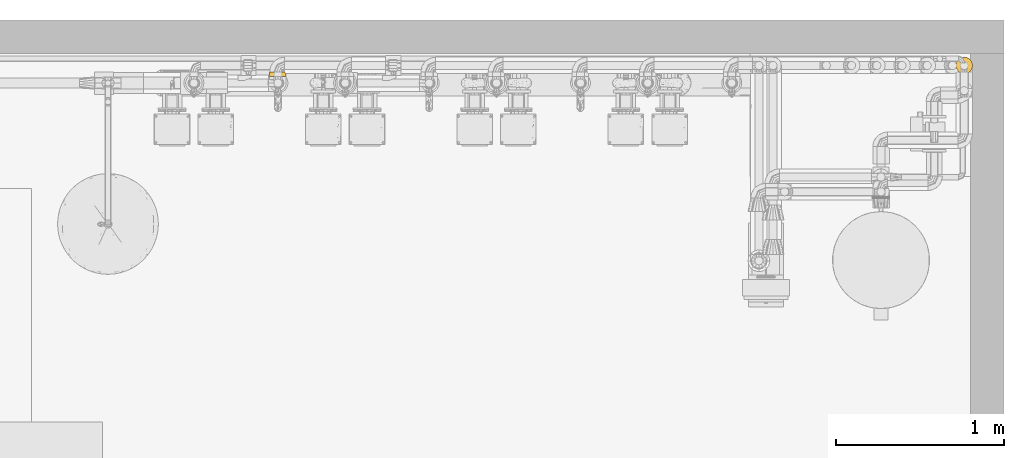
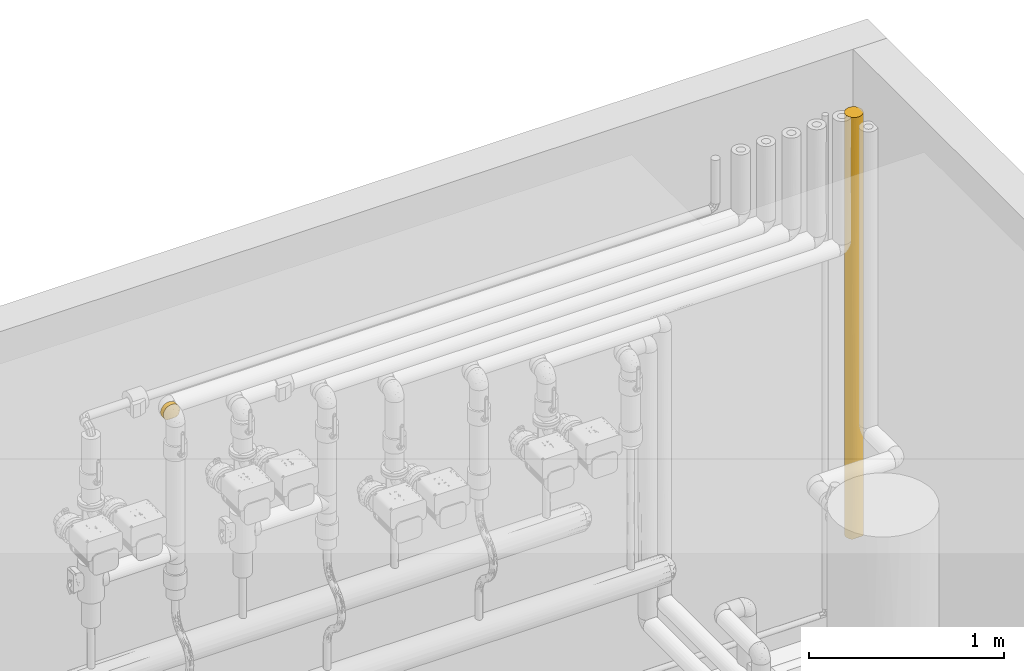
# One storey, part 11 of 94: 2 coverings.
"""IFC2X3 building model written with IfcOpenShell, lengths in millimetres."""

import ifcopenshell
import ifcopenshell.guid

model = None  # the IFC model being written
_history = None  # IfcOwnerHistory: only IFC2X3 demands one
_inside = {}  # id of a spatial element -> (the spatial element, [elements in it])
_under = {}  # id of a project, library or spatial element -> (it, [spatial elements below it])
_declared = {}  # id of a project -> (the project, [libraries it declares])
_typed = {}  # id of a type object -> (the type object, [elements of that type])
_made_of = {}  # id of a material, layer set ... -> (it, [elements and type objects made of it])


def new_model(schema):
    """Start an empty IFC model of exactly this schema.

    Asked for "IFC4X3", IfcOpenShell would pick the latest addendum, in which some entities
    have other attributes; the version numbers below select the first issue.
    IFC2X3 requires an IfcOwnerHistory on every rooted entity: one is made here for all.
    """
    global model, _history
    if schema == "IFC4X3":
        model = ifcopenshell.file(schema_version=(4, 3, 0, 0))
    else:
        model = ifcopenshell.file(schema=schema)
    _inside.clear()
    _under.clear()
    _declared.clear()
    _typed.clear()
    _made_of.clear()
    _history = None
    if model.schema == "IFC2X3":
        org = make("IfcOrganization", Name="unknown")
        user = make(
            "IfcPersonAndOrganization",
            ThePerson=make("IfcPerson", FamilyName="unknown"),
            TheOrganization=org,
        )
        app = make(
            "IfcApplication",
            ApplicationDeveloper=org,
            Version="unknown",
            ApplicationFullName="unknown",
            ApplicationIdentifier="unknown",
        )
        _history = make(
            "IfcOwnerHistory",
            OwningUser=user,
            OwningApplication=app,
            ChangeAction="ADDED",
            CreationDate=0,
        )
    return model


def make(cls, **values):
    """One entity of the class cls with the attributes given. An attribute that is None is left unset."""
    return model.create_entity(
        cls, **{name: value for name, value in values.items() if value is not None}
    )


def entity(cls, *values):
    """Any entity or typed value of the class cls, its attributes in the order of the schema. None: left unset."""
    e = model.create_entity(cls)
    for i, value in enumerate(values):
        if value is not None:
            e[i] = value
    return e


def rooted(cls, **values):
    """An entity with a GlobalId (a new one), such as an element, a storey or a relation."""
    return make(cls, GlobalId=ifcopenshell.guid.new(), OwnerHistory=_history, **values)


def si_unit(unit_type, name, prefix=None):
    """IfcSIUnit, for example si_unit("LENGTHUNIT", "METRE", prefix="MILLI")."""
    return make("IfcSIUnit", UnitType=unit_type, Prefix=prefix, Name=name)


def converted_unit(unit_type, name, factor, base, dimensions=None, offset=None):
    """IfcConversionBasedUnit, such as the inch: factor (a typed value) times the base unit."""
    return make(
        "IfcConversionBasedUnit"
        if offset is None
        else "IfcConversionBasedUnitWithOffset",
        ConversionOffset=offset,
        Dimensions=None
        if dimensions is None
        else entity("IfcDimensionalExponents", *dimensions),
        UnitType=unit_type,
        Name=name,
        ConversionFactor=make(
            "IfcMeasureWithUnit", ValueComponent=factor, UnitComponent=base
        ),
    )


def derived_unit(unit_type, elements):
    """IfcDerivedUnit: a product of units, each with its exponent."""
    return make(
        "IfcDerivedUnit",
        Elements=[
            make("IfcDerivedUnitElement", Unit=unit, Exponent=power)
            for unit, power in elements
        ],
        UnitType=unit_type,
    )


def assignment(units):
    """IfcUnitAssignment: the units of a project."""
    return None if units is None else make("IfcUnitAssignment", Units=units)


def point(xyz):
    """IfcCartesianPoint."""
    return None if xyz is None else make("IfcCartesianPoint", Coordinates=xyz)


def direction(xyz):
    """IfcDirection."""
    return None if xyz is None else make("IfcDirection", DirectionRatios=xyz)


def frame(location, z_axis=None, x_axis=None):
    """IfcAxis2Placement3D, a coordinate frame: its origin and axes. An axis left out is left unset."""
    return make(
        "IfcAxis2Placement3D",
        Location=point(location),
        Axis=direction(z_axis),
        RefDirection=direction(x_axis),
    )


def origin():
    """The frame at (0, 0, 0) with its axes left unset."""
    return frame((0.0, 0.0, 0.0))


def place(relative_to, where):
    """IfcLocalPlacement: puts the frame where relative to a parent placement (None: the world)."""
    return make(
        "IfcLocalPlacement", PlacementRelTo=relative_to, RelativePlacement=where
    )


def context(
    kind, dimensions, precision=None, world=None, true_north=None, identifier=None
):
    """IfcGeometricRepresentationContext, for example the 3D "Model" context."""
    return make(
        "IfcGeometricRepresentationContext",
        ContextIdentifier=identifier,
        ContextType=kind,
        CoordinateSpaceDimension=dimensions,
        Precision=precision,
        WorldCoordinateSystem=world,
        TrueNorth=true_north,
    )


def subcontext(parent, identifier, kind, view, scale=None):
    """IfcGeometricRepresentationSubContext, for example "Body" below "Model"."""
    return make(
        "IfcGeometricRepresentationSubContext",
        ContextIdentifier=identifier,
        ContextType=kind,
        ParentContext=parent,
        TargetScale=scale,
        TargetView=view,
    )


def project(units=None, contexts=None):
    """IfcProject with its units and contexts."""
    return rooted(
        "IfcProject",
        Name="project",
        RepresentationContexts=contexts,
        UnitsInContext=assignment(units),
    )


def spatial(cls, under=None, at=None, **own):
    """A site, building, storey or space (cls), placed at a placement, below another one or the project."""
    s = rooted(cls, ObjectPlacement=at, **own)
    if under is not None:
        _under.setdefault(under.id(), (under, []))[1].append(s)
    return s


def faces_of(points, faces, orient=None, outer=None):
    """IfcFace entities. A face is a list of loops; a loop is a list of indices into points, from 0.

    orient and outer hold one flag for each loop. By default every Orientation is true, the
    first loop of a face is its IfcFaceOuterBound and the others are IfcFaceBound.
    """
    made = []
    for i, loops in enumerate(faces):
        bounds = []
        for j, loop in enumerate(loops):
            is_outer = j == 0 if outer is None else outer[i][j]
            bounds.append(
                make(
                    "IfcFaceOuterBound" if is_outer else "IfcFaceBound",
                    Bound=make("IfcPolyLoop", Polygon=[points[k] for k in loop]),
                    Orientation=True if orient is None else orient[i][j],
                )
            )
        made.append(make("IfcFace", Bounds=bounds))
    return made


def faceted_brep(points, faces, orient=None, outer=None, voids=None):
    """IfcFacetedBrep: a solid bounded by flat faces; with voids (closed shells), ...WithVoids."""
    shared = [point(p) for p in points]
    hull = make("IfcClosedShell", CfsFaces=faces_of(shared, faces, orient, outer))
    if voids is None:
        return make("IfcFacetedBrep", Outer=hull)
    return make(
        "IfcFacetedBrepWithVoids",
        Outer=hull,
        Voids=[
            make(cls, CfsFaces=faces_of(shared, fs, o, b)) for cls, fs, o, b in voids
        ],
    )


def shape(context_of_items, identifier, shape_type, items):
    """IfcShapeRepresentation: the items that make up one representation, for example the "Body"."""
    return make(
        "IfcShapeRepresentation",
        ContextOfItems=context_of_items,
        RepresentationIdentifier=identifier,
        RepresentationType=shape_type,
        Items=items,
    )


def material(Name=None, Category=None):
    """IfcMaterial."""
    return make("IfcMaterial", Name=Name, Category=Category)


def made_of(thing, what):
    """Note that an element or type object is made of a material, layer set ...; save() writes the relation."""
    if what is not None:
        _made_of.setdefault(what.id(), (what, []))[1].append(thing)
    return thing


def element(
    cls,
    number,
    at=None,
    inside=None,
    cuts=None,
    type_object=None,
    material=None,
    context=None,
    identifier="Body",
    shape_type=None,
    held_by="IfcProductDefinitionShape",
    body=None,
    shapes=None,
    **own,
):
    """One element of the class cls, such as IfcWall. Its Tag is "e" and its number.

    at: its placement. inside: the storey or other place that contains it. cuts: it is an
    opening in that element (IfcRelVoidsElement). A single representation is given by context,
    identifier, shape_type and body (its items); several are given by shapes. held_by: the class
    of the entity that holds the representations. save() writes the other relations.
    """
    e = rooted(cls, Tag="e%d" % number, ObjectPlacement=at, **own)
    if body is not None:
        shapes = [shape(context, identifier, shape_type, body)]
    if shapes is not None:
        e.Representation = make(held_by, Representations=shapes)
    if inside is not None:
        _inside.setdefault(inside.id(), (inside, []))[1].append(e)
    if cuts is not None:
        rooted(
            "IfcRelVoidsElement", RelatingBuildingElement=cuts, RelatedOpeningElement=e
        )
    if type_object is not None:
        _typed.setdefault(type_object.id(), (type_object, []))[1].append(e)
    return made_of(e, material)


def aggregate(whole, parts):
    """IfcRelAggregates: a whole, such as a stair, and the parts it consists of."""
    return rooted("IfcRelAggregates", RelatingObject=whole, RelatedObjects=parts)


def save(model, path):
    """Write the relations noted so far, then the file.

    IfcRelAggregates (storeys below a building ...), IfcRelContainedInSpatialStructure (elements
    in a storey), IfcRelDefinesByType, IfcRelAssociatesMaterial and IfcRelDeclares: one each for
    every whole, place, type object, material and project.
    """
    for whole, parts in _under.values():
        aggregate(whole, parts)
    for where, things in _inside.values():
        rooted(
            "IfcRelContainedInSpatialStructure",
            RelatedElements=things,
            RelatingStructure=where,
        )
    for kind, things in _typed.values():
        rooted("IfcRelDefinesByType", RelatedObjects=things, RelatingType=kind)
    for what, things in _made_of.values():
        rooted("IfcRelAssociatesMaterial", RelatedObjects=things, RelatingMaterial=what)
    for by, libraries in _declared.values():
        rooted("IfcRelDeclares", RelatingContext=by, RelatedDefinitions=libraries)
    model.write(path)


model = new_model("IFC2X3")

# Units and contexts
model_context = context("Model", 3, precision=0.01, world=origin(), true_north=direction((6.123031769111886e-17, 1.0)))
body_context = subcontext(model_context, "Body", "Model", "MODEL_VIEW")
ifc_project = project(units=[si_unit("LENGTHUNIT", "METRE", prefix="MILLI"), si_unit("AREAUNIT", "SQUARE_METRE"), si_unit("VOLUMEUNIT", "CUBIC_METRE"), converted_unit("PLANEANGLEUNIT", "DEGREE", entity("IfcRatioMeasure", 0.017453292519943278), si_unit("PLANEANGLEUNIT", "RADIAN"), dimensions=[0, 0, 0, 0, 0, 0, 0]), si_unit("MASSUNIT", "GRAM", prefix="KILO"), derived_unit("MASSDENSITYUNIT", [(si_unit("MASSUNIT", "GRAM", prefix="KILO"), 1), (si_unit("LENGTHUNIT", "METRE"), -3)]), derived_unit("IONCONCENTRATIONUNIT", [(si_unit("MASSUNIT", "GRAM", prefix="KILO"), 1), (si_unit("LENGTHUNIT", "METRE"), -3)]), derived_unit("MOMENTOFINERTIAUNIT", [(si_unit("LENGTHUNIT", "METRE"), 4)]), si_unit("TIMEUNIT", "SECOND"), si_unit("FREQUENCYUNIT", "HERTZ"), si_unit("THERMODYNAMICTEMPERATUREUNIT", "DEGREE_CELSIUS"), derived_unit("THERMALTRANSMITTANCEUNIT", [(si_unit("MASSUNIT", "GRAM", prefix="KILO"), 1), (si_unit("THERMODYNAMICTEMPERATUREUNIT", "KELVIN"), -1), (si_unit("TIMEUNIT", "SECOND"), -3)]), derived_unit("THERMALCONDUCTANCEUNIT", [(si_unit("MASSUNIT", "GRAM", prefix="KILO"), 1), (si_unit("THERMODYNAMICTEMPERATUREUNIT", "KELVIN"), -1), (si_unit("TIMEUNIT", "SECOND"), -3), (si_unit("LENGTHUNIT", "METRE"), 1)]), derived_unit("VOLUMETRICFLOWRATEUNIT", [(si_unit("LENGTHUNIT", "METRE"), 3), (si_unit("TIMEUNIT", "SECOND"), -1)]), derived_unit("MASSFLOWRATEUNIT", [(si_unit("MASSUNIT", "GRAM", prefix="KILO"), 1), (si_unit("TIMEUNIT", "SECOND"), -1)]), derived_unit("ROTATIONALFREQUENCYUNIT", [(si_unit("TIMEUNIT", "SECOND"), -1)]), si_unit("ELECTRICCURRENTUNIT", "AMPERE"), si_unit("ELECTRICVOLTAGEUNIT", "VOLT"), si_unit("POWERUNIT", "WATT"), si_unit("FORCEUNIT", "NEWTON", prefix="KILO"), si_unit("ILLUMINANCEUNIT", "LUX"), si_unit("LUMINOUSFLUXUNIT", "LUMEN"), si_unit("LUMINOUSINTENSITYUNIT", "CANDELA"), derived_unit("USERDEFINED", [(si_unit("MASSUNIT", "GRAM", prefix="KILO"), -1), (si_unit("LENGTHUNIT", "METRE"), -2), (si_unit("TIMEUNIT", "SECOND"), 3), (si_unit("LUMINOUSFLUXUNIT", "LUMEN"), 1)]), derived_unit("USERDEFINED", [(si_unit("MASSUNIT", "GRAM", prefix="KILO"), 1), (si_unit("TIMEUNIT", "SECOND"), -3), (si_unit("LENGTHUNIT", "METRE"), 3), (si_unit("ELECTRICCURRENTUNIT", "AMPERE"), -2)]), derived_unit("SOUNDPOWERUNIT", [(si_unit("MASSUNIT", "GRAM", prefix="KILO"), 1), (si_unit("TIMEUNIT", "SECOND"), -3), (si_unit("LENGTHUNIT", "METRE"), 2)]), derived_unit("SOUNDPRESSUREUNIT", [(si_unit("MASSUNIT", "GRAM", prefix="KILO"), 1), (si_unit("LENGTHUNIT", "METRE"), -1), (si_unit("TIMEUNIT", "SECOND"), -2)]), derived_unit("LINEARVELOCITYUNIT", [(si_unit("LENGTHUNIT", "METRE"), 1), (si_unit("TIMEUNIT", "SECOND"), -1)]), si_unit("PRESSUREUNIT", "PASCAL"), derived_unit("USERDEFINED", [(si_unit("MASSUNIT", "GRAM", prefix="KILO"), 1), (si_unit("LENGTHUNIT", "METRE"), -2), (si_unit("TIMEUNIT", "SECOND"), -2)]), derived_unit("LINEARFORCEUNIT", [(si_unit("MASSUNIT", "GRAM", prefix="KILO"), 1), (si_unit("TIMEUNIT", "SECOND"), -2)]), derived_unit("PLANARFORCEUNIT", [(si_unit("MASSUNIT", "GRAM", prefix="KILO"), 1), (si_unit("LENGTHUNIT", "METRE"), -1), (si_unit("TIMEUNIT", "SECOND"), -2)]), derived_unit("SPECIFICHEATCAPACITYUNIT", [(si_unit("THERMODYNAMICTEMPERATUREUNIT", "KELVIN"), -1), (si_unit("LENGTHUNIT", "METRE"), 2), (si_unit("TIMEUNIT", "SECOND"), -2)]), derived_unit("HEATINGVALUEUNIT", [(si_unit("LENGTHUNIT", "METRE"), 2), (si_unit("TIMEUNIT", "SECOND"), -2)]), derived_unit("VAPORPERMEABILITYUNIT", [(si_unit("LENGTHUNIT", "METRE"), -1), (si_unit("TIMEUNIT", "SECOND"), 1)]), derived_unit("DYNAMICVISCOSITYUNIT", [(si_unit("MASSUNIT", "GRAM", prefix="KILO"), 1), (si_unit("TIMEUNIT", "SECOND"), -1), (si_unit("LENGTHUNIT", "METRE"), -1)]), derived_unit("THERMALEXPANSIONCOEFFICIENTUNIT", [(si_unit("THERMODYNAMICTEMPERATUREUNIT", "KELVIN"), -1)]), derived_unit("MODULUSOFELASTICITYUNIT", [(si_unit("MASSUNIT", "GRAM", prefix="KILO"), 1), (si_unit("LENGTHUNIT", "METRE"), -1), (si_unit("TIMEUNIT", "SECOND"), -2)]), derived_unit("ISOTHERMALMOISTURECAPACITYUNIT", [(si_unit("LENGTHUNIT", "METRE"), 3), (si_unit("MASSUNIT", "GRAM", prefix="KILO"), -1)]), derived_unit("MOISTUREDIFFUSIVITYUNIT", [(si_unit("TIMEUNIT", "SECOND"), -1), (si_unit("LENGTHUNIT", "METRE"), 2)])], contexts=[model_context])

# Site, building, storey
site_placement = place(None, origin())
site = spatial("IfcSite", under=ifc_project, at=site_placement, Name="Default", CompositionType="ELEMENT")
building_placement = place(site_placement, origin())
building = spatial("IfcBuilding", under=site, at=building_placement, CompositionType="ELEMENT")
storey_placement = place(building_placement, origin())
storey = spatial("IfcBuildingStorey", under=building, at=storey_placement, Name="Niveau 0", CompositionType="ELEMENT", Elevation=0.0)

# Coverings
ifc_material = material(Name="Isolation - Laine minérale")
covering_1_placement = place(storey_placement, frame((-9922.871137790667, 9958.875273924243, 2900.72527223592)))
element("IfcCovering", 1, at=covering_1_placement, inside=storey, material=ifc_material, Name="Isolation des canalisations:Laine minérale", ObjectType="Isolation des canalisations:Laine minérale", PredefinedType="INSULATION", context=body_context, shape_type="Brep", body=[
    faceted_brep([(12.01254465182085, 1.5952722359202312, -80.97558831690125), (19.584352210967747, 1.5952722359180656, -88.72527223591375), (81.8661922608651, 1.5952722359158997, -88.72527223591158), (89.43799982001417, 1.5952722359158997, -80.97558831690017), (95.1273794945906, 1.5952722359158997, -71.75405657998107), (98.65694811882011, 1.5952722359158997, -61.51004608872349), (99.85527223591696, 1.5952722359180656, -50.72527223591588), (98.18120808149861, 1.5952722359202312, -38.00949255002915), (93.2731003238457, 1.5952722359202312, -26.160272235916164), (85.46542839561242, 1.595272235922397, -15.985116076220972), (75.29027223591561, 1.5952722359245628, -8.177444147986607), (63.44105192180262, 1.5952722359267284, -3.26933639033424), (50.72527223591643, 1.5952722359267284, -1.5952722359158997), (38.00949255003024, 1.5952722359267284, -3.26933639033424), (26.160272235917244, 1.5952722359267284, -8.177444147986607), (15.98511607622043, 1.5952722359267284, -15.985116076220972), (8.17744414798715, 1.5952722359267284, -26.160272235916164), (3.26933639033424, 1.5952722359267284, -38.00949255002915), (1.5952722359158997, 1.5952722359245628, -50.72527223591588), (2.793596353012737, 1.595272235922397, -61.51004608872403), (6.323164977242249, 1.595272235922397, -71.75405657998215), (61.510046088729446, 29.970350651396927, -98.65694811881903), (50.72527223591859, 29.970350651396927, -99.85527223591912), (38.0094925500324, 29.970350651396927, -98.18120808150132), (26.16027223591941, 29.970350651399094, -93.27310032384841), (15.985116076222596, 29.97035065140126, -85.46542839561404), (8.177444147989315, 29.970350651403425, -75.29027223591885), (3.269336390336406, 29.970350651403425, -63.441051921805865), (1.5952722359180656, 29.970350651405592, -50.725272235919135), (3.269336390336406, 29.970350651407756, -38.0094925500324), (8.177444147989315, 29.970350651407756, -26.16027223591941), (15.985116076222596, 29.970350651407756, -15.985116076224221), (26.16027223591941, 29.970350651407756, -8.177444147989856), (38.0094925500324, 29.970350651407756, -3.269336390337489), (50.72527223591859, 29.970350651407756, -1.5952722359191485), (61.51004608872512, 29.970350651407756, -2.793596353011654), (71.75405657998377, 29.970350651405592, -6.323164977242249), (80.97558831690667, 29.970350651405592, -12.012544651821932), (88.72527223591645, 29.970350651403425, -19.584352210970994), (88.72527223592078, 29.970350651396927, -81.86619226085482), (80.97558831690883, 29.970350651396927, -89.43799982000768), (71.75405657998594, 29.970350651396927, -95.12737949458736), (34.190204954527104, 9.859172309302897, -96.98917230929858), (42.334459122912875, 12.003444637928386, -99.13344463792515), (50.72527223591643, 12.725272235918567, -99.85527223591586), (26.531823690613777, 6.355463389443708, -93.48546338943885), (59.116085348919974, 12.003444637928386, -99.13344463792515), (67.26033951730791, 9.859172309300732, -96.98917230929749), (74.91872078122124, 6.3554633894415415, -93.48546338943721), (93.48546338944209, 25.21015949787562, -74.91872078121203), (96.98917230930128, 21.706450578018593, -67.26033951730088), (99.13344463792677, 19.562178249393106, -59.116085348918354), (99.85527223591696, 18.840350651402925, -50.72527223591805), (99.13344463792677, 19.562178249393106, -42.33445912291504), (96.98917230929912, 21.70645057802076, -34.19020495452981), (93.48546338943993, 25.21015949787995, -26.531823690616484)], [[[0, 1, 2, 3, 4, 5, 6, 7, 8, 9, 10, 11, 12, 13, 14, 15, 16, 17, 18, 19, 20]], [[21, 22, 23, 24, 25, 26, 27, 28, 29, 30, 31, 32, 33, 34, 35, 36, 37, 38, 39, 40, 41]], [[19, 28, 27]], [[27, 26, 20]], [[25, 0, 26]], [[18, 28, 19]], [[20, 19, 27]], [[0, 20, 26]], [[25, 1, 0]], [[42, 24, 23]], [[23, 22, 43]], [[44, 43, 22]], [[1, 25, 45]], [[43, 42, 23]], [[45, 24, 42]], [[45, 25, 24]], [[46, 22, 21]], [[21, 41, 47]], [[40, 48, 41]], [[46, 44, 22]], [[48, 47, 41]], [[2, 48, 40]], [[46, 21, 47]], [[40, 39, 2]], [[39, 49, 3]], [[50, 51, 5]], [[49, 50, 4]], [[3, 49, 4]], [[51, 6, 5]], [[5, 4, 50]], [[6, 51, 52]], [[39, 3, 2]], [[53, 54, 7]], [[8, 55, 9]], [[54, 55, 8]], [[52, 53, 6]], [[6, 53, 7]], [[54, 8, 7]], [[55, 38, 9]], [[10, 37, 36]], [[36, 35, 11]], [[34, 12, 35]], [[9, 37, 10]], [[11, 10, 36]], [[12, 11, 35]], [[37, 9, 38]], [[12, 34, 33, 13]], [[13, 33, 32, 14]], [[14, 32, 31, 15]], [[16, 30, 29, 17]], [[17, 29, 28, 18]], [[15, 31, 30, 16]], [[45, 42, 43, 44, 46, 47, 48, 2, 1]], [[38, 55, 54, 53, 52, 51, 50, 49, 39]]]),
])
covering_2_placement = place(storey_placement, frame((-5839.629974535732, 9976.120352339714, 3262.0003612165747)))
element("IfcCovering", 2, at=covering_2_placement, inside=storey, material=ifc_material, Name="Isolation des canalisations:Laine minérale", ObjectType="Isolation des canalisations:Laine minérale", PredefinedType="INSULATION", context=body_context, shape_type="Brep", body=[
    faceted_brep([(19.60411935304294, 12.725880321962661, -2645.1259996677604), (12.032183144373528, 20.47558183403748, -2645.1260527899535), (6.342700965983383, 29.69717127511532, -2645.126091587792), (2.813066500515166, 39.941268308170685, -2645.126114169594), (1.614719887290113, 50.726142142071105, -2645.1261194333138), (3.288784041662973, 63.441921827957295, -2645.1261029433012), (8.196891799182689, 75.29114214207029, -2645.1260629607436), (16.004563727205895, 85.46629830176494, -2645.1260022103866), (26.179719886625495, 93.27397022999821, -2645.1259248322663), (38.028940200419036, 98.18207798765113, -2645.125836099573), (50.74471988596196, 99.85614214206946, -2645.125742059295), (63.46049957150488, 98.18207798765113, -2645.12564912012), (75.30971988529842, 93.27397022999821, -2645.1255636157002), (85.48487604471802, 85.46629830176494, -2645.1254913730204), (93.29254797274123, 75.29114214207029, -2645.125437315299), (98.20065573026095, 63.441921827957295, -2645.125405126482), (99.8747198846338, 50.726142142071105, -2645.1253970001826), (98.67636974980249, 39.94125265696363, -2645.1254093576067), (95.14672497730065, 29.697142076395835, -2645.1254386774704), (89.45722675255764, 20.47554360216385, -2645.1254835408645), (81.88527040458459, 12.725839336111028, -2645.1255417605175), (26.160272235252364, 8.17744414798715, -0.0005558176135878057), (38.00949254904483, 3.26933639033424, -0.0004703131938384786), (50.72527223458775, 1.5952722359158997, -0.0003773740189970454), (63.44105192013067, 3.26933639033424, -0.00028333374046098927), (75.29027223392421, 8.17744414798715, -0.0001946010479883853), (85.46542839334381, 15.98511607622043, -0.00011722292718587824), (93.27310032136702, 26.16027223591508, -5.647257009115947e-05), (98.18120807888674, 38.00949255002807, -1.6490012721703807e-05), (99.8552722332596, 50.72527223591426, 0.0), (98.18120807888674, 63.44105192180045, -8.126299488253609e-06), (93.27310032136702, 75.29027223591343, -4.031511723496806e-05), (85.46542839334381, 85.46542839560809, -9.437283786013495e-05), (75.29027223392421, 93.27310032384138, -0.00016661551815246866), (63.44105192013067, 98.18120808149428, -0.00025211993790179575), (50.72527223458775, 99.85527223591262, -0.00034505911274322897), (38.00949254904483, 98.18120808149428, -0.0004390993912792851), (26.16027223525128, 93.27310032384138, -0.0005278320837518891), (15.985116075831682, 85.46542839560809, -0.0006052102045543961), (8.177444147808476, 75.29027223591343, -0.0006659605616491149), (3.26933639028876, 63.44105192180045, -0.0007059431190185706), (1.5952722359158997, 50.72527223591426, -0.0007224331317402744), (3.26933639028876, 38.00949255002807, -0.0007143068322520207), (8.177444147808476, 26.16027223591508, -0.0006821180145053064), (15.985116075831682, 15.98511607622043, -0.0006280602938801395), (60.1482634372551, 98.94418055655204, -581.415321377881), (62.920880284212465, 98.31961047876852, -935.4359238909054), (50.732469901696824, 99.85559419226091, -978.9736611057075), (69.54402104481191, 96.11625690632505, -2381.8002658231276), (69.52863666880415, 96.11556881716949, -289.3504466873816), (80.6366720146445, 89.70285379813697, -401.33640888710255), (69.53117575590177, 96.1156823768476, -634.6937060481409), (99.14761316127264, 59.13498065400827, -2354.785472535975), (96.13279395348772, 69.5272839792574, -2355.775177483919), (50.72887106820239, 99.85543321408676, -489.48700308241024), (59.136340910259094, 99.13039564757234, -290.3402079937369), (61.09846723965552, 98.75195426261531, -2219.8754664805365), (69.54164014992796, 96.11615034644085, -2057.9505426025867), (98.33187294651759, 62.91456489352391, -1709.6897270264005), (99.86752221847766, 50.72582018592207, -1666.1521944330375), (98.95916229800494, 60.14466732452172, -2063.7103497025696), (99.86499606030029, 50.72570718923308, -1322.5628825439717), (60.67824615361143, 98.84008396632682, -1910.6391362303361), (80.6507170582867, 89.70348199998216, -2311.6320880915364), (89.71921881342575, 80.63445909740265, -2243.789177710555), (98.88329182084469, 60.47290906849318, -635.9177239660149), (96.11894232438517, 69.52666435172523, -471.7773109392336), (98.94810790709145, 60.134795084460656, -313.3110317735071), (99.87112105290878, 50.72598116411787, -2155.63897976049), (50.741657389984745, 99.85600515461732, -2228.587721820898), (91.08797979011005, 78.7572399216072, -1932.6282788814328), (96.13025491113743, 69.52717037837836, -2010.431915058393), (89.70517380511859, 80.63383087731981, -333.4934990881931), (65.08449077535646, 97.71418371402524, -1603.7805736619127), (50.73859489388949, 99.85586816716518, -1812.049701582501), (50.7375222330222, 99.85582018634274, -1666.1543149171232), (50.73553239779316, 99.85573117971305, -1395.511681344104), (83.95555682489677, 86.92604410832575, -1933.8629834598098), (65.43163239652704, 97.60589111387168, -1265.321260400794), (78.28724878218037, 91.40142324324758, -1053.0784806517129), (78.15831592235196, 91.48983516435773, -1312.5686276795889), (89.70869419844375, 80.63398827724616, -812.3042870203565), (99.85887106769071, 50.725433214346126, -489.48678532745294), (99.86246989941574, 50.725594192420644, -978.9732025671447), (97.15756745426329, 66.80178577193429, -945.3896073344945), (78.97599974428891, 90.92444575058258, -724.8651150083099), (73.92688649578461, 94.03920745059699, -1772.3361309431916), (77.64164659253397, 91.83656907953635, -2065.278126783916), (80.64516221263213, 89.70323347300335, -1556.0939247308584), (91.85156610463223, 77.62104854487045, -1603.4981849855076), (85.77110155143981, 85.16632011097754, -1187.9647270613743), (97.59540596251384, 65.48593809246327, -1330.480429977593), (92.42925513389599, 76.71158798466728, -1196.1578474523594), (73.01082999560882, 94.51621756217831, -1504.0601480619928), (50.73499610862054, 99.85570719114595, -1322.5695950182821), (50.74112105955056, 99.85598116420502, -2155.640028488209), (99.86067048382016, 50.72551370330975, -734.2300302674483), (69.52863662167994, 5.335165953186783, -289.3504770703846), (80.63667193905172, 11.747954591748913, -401.3364357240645), (70.02822177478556, 5.541913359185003, -1507.166050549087), (78.72244968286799, 10.346168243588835, -1446.7933634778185), (72.28886596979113, 6.576442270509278, -1218.3655620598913), (61.109746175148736, 2.7023862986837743, -2297.5320176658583), (50.74103921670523, 1.59597750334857, -2144.508468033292), (50.74463805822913, 1.596138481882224, -2633.9962210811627), (61.909076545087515, 2.8833354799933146, -1290.234899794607), (65.321531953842, 3.8101306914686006, -1766.163131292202), (50.72887107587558, 1.5954332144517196, -489.48813042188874), (59.1363409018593, 2.3203397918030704, -290.34024116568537), (98.954013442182, 41.335089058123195, -611.8583291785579), (89.70517375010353, 20.816932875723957, -333.4935198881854), (95.16318537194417, 29.75491139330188, -1137.0805417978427), (92.30134820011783, 24.532556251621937, -1467.158121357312), (98.32224974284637, 38.50858695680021, -1391.7247270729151), (97.99910768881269, 37.30115010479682, -1844.441816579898), (97.19208595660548, 34.72147409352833, -2273.834309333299), (92.55488151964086, 24.928997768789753, -2353.0332582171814), (59.13533880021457, 2.3179459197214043, -2634.7179612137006), (85.88280515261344, 16.391197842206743, -2273.83575319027), (92.55241991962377, 24.928808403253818, -2025.0643383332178), (78.36330858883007, 10.095348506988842, -2357.6611694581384), (67.27950148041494, 4.462158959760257, -2636.8620866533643), (74.93782158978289, 7.965772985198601, -2640.3655953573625), (59.587899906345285, 2.3992116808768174, -2005.548900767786), (71.38555368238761, 6.143824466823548, -2171.66275361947), (79.52366598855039, 10.910352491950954, -2060.6372854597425), (86.24923092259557, 16.772893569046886, -1917.7962659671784), (78.98215489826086, 10.525879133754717, -1762.9329271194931), (60.14826336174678, 2.506746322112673, -581.4153561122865), (91.32032191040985, 23.03393742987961, -1747.5675978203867), (86.11291920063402, 16.633245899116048, -1596.7071179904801), (96.56330785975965, 33.03941649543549, -238.6895957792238), (96.11929811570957, 31.92420621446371, -520.1768015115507), (99.10700521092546, 42.17120407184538, -293.669061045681), (89.70952341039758, 20.817127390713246, -925.1072788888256), (91.46611775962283, 23.260640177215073, -629.3003856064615), (80.36456109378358, 11.538539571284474, -806.2208873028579), (89.65315467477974, 20.741155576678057, -1213.081561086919), (69.53117564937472, 5.335279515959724, -634.6937375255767), (82.99249579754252, 13.669757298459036, -1173.244064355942), (98.69148571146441, 40.0601527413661, -1067.6863221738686), (96.89820044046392, 33.921496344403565, -822.4607492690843), (50.73744038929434, 1.5958165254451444, -1655.0226344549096), (62.92088020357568, 3.131549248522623, -935.4359599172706), (72.38085681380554, 6.622461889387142, -916.8800064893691), (50.73246990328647, 1.595594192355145, -978.9739640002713), (50.73495514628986, 1.595705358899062, -1316.9982992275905), (31.926162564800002, 5.335165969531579, -289.3507544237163), (20.819773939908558, 11.747954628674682, -401.3368760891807), (31.92870159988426, 5.335279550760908, -634.6940156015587), (8.930272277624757, 24.929033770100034, -2357.178472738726), (4.291886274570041, 34.72149697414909, -2273.8351155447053), (41.31083048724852, 2.506746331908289, -581.4154960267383), (42.31847285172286, 2.3203397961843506, -290.34036518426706), (29.179552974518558, 6.576462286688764, -1218.3651330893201), (29.08316981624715, 6.622461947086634, -916.8803273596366), (18.4752919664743, 13.669764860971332, -1173.2434610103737), (9.993680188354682, 23.26064029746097, -629.3009831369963), (21.097838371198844, 11.538539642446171, -806.2213229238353), (30.09688722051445, 6.143841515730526, -2171.662251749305), (36.154949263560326, 3.8101412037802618, -1766.1618981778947), (22.49426564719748, 10.525912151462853, -1762.9318673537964), (5.338895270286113, 31.924206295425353, -520.1774676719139), (5.336731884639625, 31.924109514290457, -225.92915177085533), (2.3561948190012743, 42.12422920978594, -294.7469631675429), (40.374556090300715, 2.7023919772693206, -2297.5317099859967), (42.353932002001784, 2.317948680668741, -2634.718076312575), (21.95713188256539, 10.910386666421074, -2060.636766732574), (23.121866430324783, 10.095374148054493, -2357.6605774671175), (15.361073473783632, 16.63327764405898, -1596.705857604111), (15.229470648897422, 16.772938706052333, -1917.7949524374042), (1.611121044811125, 50.72598116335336, -2155.6382394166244), (3.4785494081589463, 37.30118182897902, -1844.4432667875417), (1.6075222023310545, 50.72582018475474, -1666.1503593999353), (15.601135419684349, 16.39123833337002, -2273.836392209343), (34.20978633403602, 4.462169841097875, -2636.8623189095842), (38.54341930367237, 3.131549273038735, -935.4361422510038), (22.749337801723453, 10.346189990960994, -1446.7927033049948), (8.92788091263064, 24.928842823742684, -2025.0648026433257), (31.444441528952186, 5.541931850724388, -1507.1653542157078), (3.1487562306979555, 38.50859926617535, -1391.7279727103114), (9.170738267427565, 24.532606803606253, -1467.1584370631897), (11.750274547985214, 20.816932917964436, -333.4940931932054), (41.89212719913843, 2.3992131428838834, -2005.5479120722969), (1.5983347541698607, 50.72540922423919, -416.5417564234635), (1.5988710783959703, 50.72543321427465, -489.4886024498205), (11.754624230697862, 20.817127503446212, -925.1078488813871), (5.731507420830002, 31.009024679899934, -871.0152521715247), (26.551505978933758, 7.9657968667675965, -2640.3659431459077), (10.155907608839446, 23.033955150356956, -1747.5679314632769), (2.4636411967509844, 41.557592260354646, -734.2307005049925), (1.6013972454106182, 50.72554621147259, -833.0791163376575), (1.6024698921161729, 50.725594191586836, -978.9725709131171), (6.074989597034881, 30.248240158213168, -1194.336352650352), (2.834702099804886, 39.793912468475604, -1062.0006937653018), (1.6049960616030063, 50.725707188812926, -1322.5634209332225), (39.56042086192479, 2.8833399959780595, -1290.2339884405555), (10.871361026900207, 22.007757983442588, -1201.7407067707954), (1.6044597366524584, 50.72568319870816, -1249.6164762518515), (2.6164889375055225, 60.664439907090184, -734.4872317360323), (11.75027456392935, 80.63383092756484, -333.494073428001), (20.819773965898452, 89.70285383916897, -401.336849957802), (31.926162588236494, 96.11556883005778, -289.35072383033), (5.33700684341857, 69.52659587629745, -263.32602735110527), (2.7024467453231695, 61.08228567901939, -425.250909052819), (42.318472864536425, 99.13039564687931, -290.34033298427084), (2.3375573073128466, 59.13498069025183, -2354.786185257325), (5.352391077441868, 69.52728401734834, -2355.7758461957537), (2.5217280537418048, 60.144667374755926, -2063.7110605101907), (20.833818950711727, 89.70348207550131, -2311.632529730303), (2.2307466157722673, 58.536655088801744, -1440.8779679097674), (41.310830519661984, 98.94418056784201, -581.4154632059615), (5.349852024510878, 69.5271704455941, -2010.43258545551), (3.1438117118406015, 62.91456497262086, -1709.6904297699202), (41.33299649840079, 98.94657122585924, -2331.8147825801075), (31.940014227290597, 96.11618842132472, -2173.348590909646), (20.83029861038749, 89.70332460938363, -1832.821741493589), (34.66156640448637, 97.15117566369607, -1699.736265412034), (10.061172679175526, 78.2800298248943, -1592.047710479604), (40.99261669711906, 98.8792771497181, -2009.2080907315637), (11.755829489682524, 80.63407941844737, -1089.0322353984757), (14.530365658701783, 83.94157238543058, -711.263132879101), (23.837681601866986, 91.84011934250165, -1041.6278097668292), (11.764319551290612, 80.63445916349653, -2243.7897530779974), (35.97470933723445, 97.58605620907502, -1314.6454288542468), (12.712071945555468, 81.83357732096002, -1906.5051964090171), (31.928701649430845, 96.11568240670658, -634.6939843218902), (22.699178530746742, 91.07400487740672, -712.4977239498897), (8.539231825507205, 75.89664846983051, -822.6267821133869), (5.339387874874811, 69.5267023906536, -587.1757464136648), (38.5434193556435, 98.31961048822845, -935.4361086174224), (24.75000289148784, 92.42093709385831, -1448.9681347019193), (18.243134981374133, 87.5776146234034, -1262.550308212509), (3.7445443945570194, 65.07304170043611, -1041.3457571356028), (4.826398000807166, 68.22181740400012, -1388.347152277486), (7.0512540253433, 73.21234573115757, -1065.479947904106), (16.896077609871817, 86.34272380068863, -1560.0845657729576), (12.376985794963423, 81.42429915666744, -1352.7182061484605)], [[[0, 1, 2, 3, 4, 5, 6, 7, 8, 9, 10, 11, 12, 13, 14, 15, 16, 17, 18, 19, 20]], [[21, 22, 23, 24, 25, 26, 27, 28, 29, 30, 31, 32, 33, 34, 35, 36, 37, 38, 39, 40, 41, 42, 43, 44]], [[45, 46, 47]], [[48, 12, 11]], [[34, 33, 49]], [[50, 51, 49]], [[52, 15, 53]], [[45, 54, 55]], [[50, 33, 32]], [[56, 57, 48]], [[58, 59, 60]], [[61, 59, 58]], [[49, 55, 34]], [[62, 57, 56]], [[63, 64, 13]], [[65, 66, 67]], [[60, 68, 52]], [[15, 14, 53]], [[69, 56, 10]], [[30, 67, 66]], [[64, 70, 71]], [[72, 50, 32]], [[64, 71, 53]], [[64, 14, 13]], [[73, 74, 75, 76]], [[31, 30, 66]], [[77, 64, 63]], [[78, 79, 80]], [[72, 81, 50]], [[29, 82, 67]], [[65, 83, 84]], [[32, 31, 72]], [[34, 55, 35]], [[85, 81, 79]], [[13, 12, 63]], [[15, 52, 16]], [[64, 77, 70]], [[31, 66, 72]], [[69, 62, 56]], [[81, 72, 66]], [[48, 63, 12]], [[86, 77, 87]], [[87, 77, 63]], [[77, 88, 89]], [[80, 90, 88]], [[81, 66, 84]], [[61, 58, 91]], [[92, 81, 84]], [[50, 49, 33]], [[45, 55, 49]], [[64, 53, 14]], [[60, 52, 53]], [[45, 49, 51]], [[35, 55, 54]], [[60, 53, 71]], [[16, 52, 68]], [[46, 45, 51]], [[47, 54, 45]], [[79, 46, 51]], [[78, 47, 46]], [[50, 85, 51]], [[81, 92, 90]], [[93, 88, 86]], [[78, 76, 94, 47]], [[86, 88, 77]], [[58, 60, 71]], [[59, 68, 60]], [[71, 89, 58]], [[11, 10, 56]], [[89, 92, 91]], [[61, 91, 83]], [[48, 57, 87]], [[11, 56, 48]], [[62, 69, 95, 74]], [[74, 73, 62]], [[86, 62, 73]], [[91, 92, 84]], [[89, 88, 90]], [[91, 84, 83]], [[89, 91, 58]], [[77, 89, 70]], [[89, 71, 70]], [[29, 67, 30]], [[65, 67, 82]], [[65, 82, 96, 83]], [[84, 66, 65]], [[48, 87, 63]], [[87, 57, 86]], [[62, 86, 57]], [[93, 86, 73]], [[78, 93, 73]], [[80, 88, 93]], [[76, 78, 73]], [[79, 78, 46]], [[78, 80, 93]], [[90, 80, 79]], [[81, 90, 79]], [[90, 92, 89]], [[81, 85, 50]], [[79, 51, 85]], [[24, 97, 25]], [[25, 98, 26]], [[99, 100, 101]], [[102, 103, 104]], [[105, 106, 99]], [[23, 107, 108]], [[109, 96, 82]], [[98, 110, 26]], [[111, 112, 113]], [[114, 115, 68]], [[18, 116, 19]], [[27, 26, 110]], [[102, 104, 117]], [[17, 16, 68]], [[118, 116, 119]], [[119, 115, 114]], [[118, 120, 20]], [[120, 121, 122]], [[123, 103, 102]], [[102, 121, 124]], [[25, 97, 98]], [[119, 116, 115]], [[18, 17, 115]], [[19, 118, 20]], [[125, 126, 127]], [[97, 108, 128]], [[129, 112, 130]], [[131, 132, 133]], [[106, 124, 127]], [[134, 135, 136]], [[134, 137, 111]], [[132, 109, 133]], [[119, 129, 126]], [[118, 125, 120]], [[17, 68, 115]], [[114, 68, 59]], [[136, 98, 138]], [[97, 128, 138]], [[110, 135, 132]], [[114, 113, 112]], [[28, 133, 29]], [[129, 114, 112]], [[114, 59, 113]], [[134, 136, 139]], [[140, 61, 83, 96]], [[140, 109, 141]], [[98, 136, 135]], [[131, 110, 132]], [[100, 99, 127]], [[123, 142, 103]], [[139, 100, 130]], [[143, 138, 128]], [[108, 97, 24]], [[98, 97, 138]], [[144, 138, 143]], [[136, 144, 139]], [[100, 139, 101]], [[137, 134, 139]], [[23, 108, 24]], [[108, 107, 128]], [[107, 145, 128]], [[143, 128, 145]], [[145, 146, 142, 105]], [[138, 144, 136]], [[142, 106, 105]], [[105, 143, 145]], [[130, 100, 127]], [[130, 127, 126]], [[130, 112, 137]], [[125, 127, 124]], [[118, 119, 126]], [[105, 99, 101]], [[127, 99, 106]], [[143, 105, 101]], [[120, 125, 124]], [[118, 126, 125]], [[121, 120, 124]], [[20, 120, 122]], [[126, 129, 130]], [[114, 129, 119]], [[140, 111, 113]], [[134, 111, 141]], [[140, 113, 61]], [[96, 109, 140]], [[133, 109, 82]], [[109, 132, 141]], [[29, 133, 82]], [[133, 28, 131]], [[141, 132, 135]], [[111, 140, 141]], [[28, 27, 131]], [[110, 131, 27]], [[19, 116, 118]], [[18, 115, 116]], [[143, 101, 144]], [[139, 144, 101]], [[121, 102, 117]], [[123, 124, 106]], [[124, 123, 102]], [[142, 123, 106]], [[113, 59, 61]], [[135, 110, 98]], [[141, 135, 134]], [[130, 137, 139]], [[111, 137, 112]], [[147, 148, 149]], [[2, 150, 151]], [[152, 107, 153]], [[148, 21, 44]], [[154, 155, 156]], [[22, 21, 147]], [[157, 158, 148]], [[159, 160, 161]], [[162, 163, 164]], [[104, 165, 166]], [[159, 167, 168]], [[169, 170, 161]], [[171, 172, 173]], [[1, 174, 150]], [[175, 159, 168]], [[165, 175, 166]], [[176, 145, 152]], [[154, 156, 177]], [[171, 4, 3]], [[151, 3, 2]], [[42, 163, 43]], [[178, 151, 150]], [[154, 177, 179]], [[0, 174, 1]], [[147, 153, 22]], [[180, 172, 181]], [[104, 103, 165]], [[148, 44, 182]], [[183, 142, 160]], [[164, 41, 184, 185]], [[151, 172, 171]], [[186, 157, 187]], [[168, 0, 188]], [[167, 161, 170]], [[151, 178, 172]], [[171, 3, 151]], [[44, 43, 182]], [[22, 153, 23]], [[182, 157, 148]], [[189, 172, 178]], [[190, 185, 191, 192]], [[180, 173, 172]], [[170, 169, 189]], [[190, 187, 162]], [[193, 186, 187]], [[194, 195, 180]], [[163, 182, 43]], [[157, 182, 162]], [[159, 165, 183]], [[154, 179, 196]], [[196, 142, 146, 145]], [[158, 149, 148]], [[148, 147, 21]], [[152, 153, 147]], [[156, 158, 186]], [[149, 155, 176]], [[193, 197, 186]], [[177, 169, 161]], [[152, 147, 149]], [[23, 153, 107]], [[176, 152, 149]], [[145, 107, 152]], [[155, 149, 158]], [[196, 145, 176]], [[196, 176, 154]], [[187, 157, 162]], [[164, 190, 162]], [[190, 194, 187]], [[187, 194, 193]], [[192, 194, 190]], [[193, 194, 180]], [[180, 181, 193]], [[193, 181, 197]], [[169, 197, 181]], [[156, 186, 197]], [[156, 197, 169]], [[179, 161, 160]], [[156, 169, 177]], [[189, 169, 181]], [[178, 174, 170]], [[161, 167, 159]], [[161, 179, 177]], [[160, 142, 196]], [[196, 179, 160]], [[170, 174, 167]], [[168, 167, 174]], [[0, 168, 174]], [[175, 168, 188]], [[172, 189, 181]], [[170, 189, 178]], [[1, 150, 2]], [[178, 150, 174]], [[156, 155, 158]], [[154, 176, 155]], [[183, 165, 103]], [[175, 165, 159]], [[142, 183, 103]], [[159, 183, 160]], [[164, 163, 42]], [[182, 163, 162]], [[41, 164, 42]], [[164, 185, 190]], [[194, 192, 198, 195]], [[195, 173, 180]], [[158, 157, 186]], [[199, 191, 185, 184]], [[200, 38, 201]], [[37, 201, 38]], [[39, 38, 200]], [[37, 202, 201]], [[203, 204, 40]], [[35, 54, 205]], [[4, 171, 206]], [[207, 206, 208]], [[8, 7, 209]], [[37, 36, 202]], [[210, 173, 195, 198]], [[202, 205, 211]], [[212, 208, 213]], [[10, 9, 214]], [[215, 216, 217]], [[203, 40, 39]], [[212, 213, 218]], [[219, 75, 74, 95]], [[220, 221, 222]], [[6, 5, 207]], [[223, 6, 207]], [[184, 204, 199]], [[6, 223, 7]], [[217, 224, 75]], [[215, 9, 8]], [[223, 209, 7]], [[219, 95, 214]], [[214, 9, 215]], [[225, 212, 218]], [[207, 208, 212]], [[209, 216, 215]], [[201, 202, 226]], [[201, 227, 221]], [[202, 211, 226]], [[228, 200, 221]], [[209, 223, 225]], [[40, 204, 41]], [[215, 8, 209]], [[221, 200, 201]], [[203, 200, 229]], [[223, 207, 212]], [[227, 201, 226]], [[228, 221, 220]], [[230, 226, 211]], [[222, 231, 232]], [[216, 231, 217]], [[224, 217, 231]], [[206, 207, 5]], [[205, 202, 36]], [[4, 206, 5]], [[206, 171, 208]], [[35, 205, 36]], [[205, 54, 211]], [[171, 173, 208]], [[213, 208, 173]], [[233, 234, 210]], [[234, 233, 235]], [[232, 231, 236]], [[218, 236, 225]], [[233, 198, 192, 191]], [[228, 233, 229]], [[228, 235, 233]], [[54, 47, 211]], [[230, 211, 47]], [[224, 94, 76, 75]], [[222, 226, 230]], [[230, 47, 94]], [[200, 203, 39]], [[204, 203, 229]], [[204, 229, 199]], [[204, 184, 41]], [[229, 233, 199]], [[233, 191, 199]], [[236, 231, 216]], [[224, 222, 230]], [[222, 224, 231]], [[94, 224, 230]], [[226, 222, 227]], [[222, 221, 227]], [[219, 214, 215]], [[214, 95, 69, 10]], [[215, 217, 219]], [[75, 219, 217]], [[228, 220, 235]], [[200, 228, 229]], [[235, 237, 234]], [[234, 213, 210]], [[237, 235, 220]], [[218, 213, 234]], [[173, 210, 213]], [[233, 210, 198]], [[209, 225, 216]], [[212, 225, 223]], [[225, 236, 216]], [[232, 237, 220]], [[237, 236, 218]], [[220, 222, 232]], [[236, 237, 232]], [[234, 237, 218]], [[121, 117, 104, 166, 175, 188, 0, 20, 122]]]),
])

save(model, "model.ifc")
